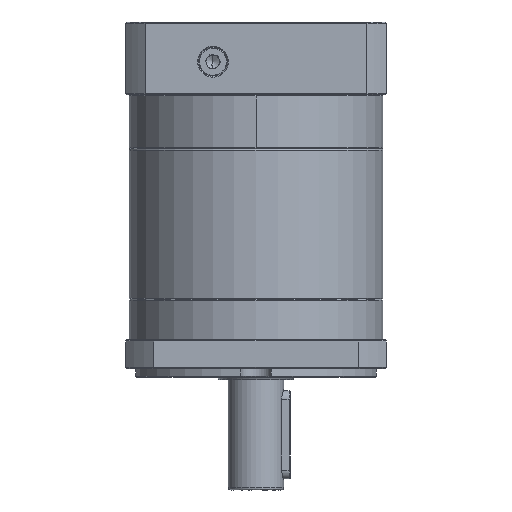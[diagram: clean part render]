
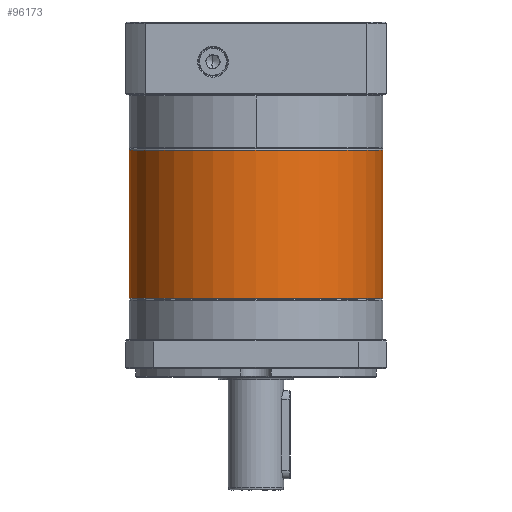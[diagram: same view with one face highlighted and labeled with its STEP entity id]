
A CAD part, front view. The second image highlights one B-rep face of the part: STEP entity #96173.
In plain terms, the highlighted cylindrical face has radius 57.5 mm (diameter 115 mm), a partial arc.
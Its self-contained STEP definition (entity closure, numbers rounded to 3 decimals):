
#675 = VECTOR ( 'NONE', #74967, 1000. ) ;
#3941 = CARTESIAN_POINT ( 'NONE',  ( -8.841, 66.552, -62.096 ) ) ;
#12199 = VERTEX_POINT ( 'NONE', #89781 ) ;
#13494 = CARTESIAN_POINT ( 'NONE',  ( 48.659, 66.552, -62.096 ) ) ;
#15420 = EDGE_LOOP ( 'NONE', ( #60437, #20336, #126710, #114107, #60908 ) ) ;
#19571 = CIRCLE ( 'NONE', #128892, 57.5 ) ;
#20336 = ORIENTED_EDGE ( 'NONE', *, *, #81958, .T. ) ;
#32185 = DIRECTION ( 'NONE',  ( 0., 0., -1. ) ) ;
#40182 = VERTEX_POINT ( 'NONE', #84804 ) ;
#40280 = AXIS2_PLACEMENT_3D ( 'NONE', #94298, #44136, #115853 ) ;
#44136 = DIRECTION ( 'NONE',  ( 0., 0., 1. ) ) ;
#46650 = EDGE_CURVE ( 'NONE', #12199, #109965, #111916, .T. ) ;
#47718 = CARTESIAN_POINT ( 'NONE',  ( 48.659, 66.552, -62.596 ) ) ;
#48606 = DIRECTION ( 'NONE',  ( 0., 0., -1. ) ) ;
#48667 = AXIS2_PLACEMENT_3D ( 'NONE', #47718, #48606, #120321 ) ;
#49176 = VECTOR ( 'NONE', #32185, 1000. ) ;
#49644 = CARTESIAN_POINT ( 'NONE',  ( 48.659, 9.052, -62.596 ) ) ;
#50309 = LINE ( 'NONE', #3941, #675 ) ;
#52249 = AXIS2_PLACEMENT_3D ( 'NONE', #13494, #96258, #126784 ) ;
#57441 = EDGE_CURVE ( 'NONE', #85283, #40182, #19571, .T. ) ;
#57713 = DIRECTION ( 'NONE',  ( 0., 0., -1. ) ) ;
#60437 = ORIENTED_EDGE ( 'NONE', *, *, #79725, .F. ) ;
#60908 = ORIENTED_EDGE ( 'NONE', *, *, #46650, .T. ) ;
#63007 = CARTESIAN_POINT ( 'NONE',  ( 106.159, 66.552, -62.096 ) ) ;
#67928 = CARTESIAN_POINT ( 'NONE',  ( 106.159, 66.552, -129.808 ) ) ;
#74967 = DIRECTION ( 'NONE',  ( 0., 0., -1. ) ) ;
#79725 = EDGE_CURVE ( 'NONE', #122791, #109965, #110195, .T. ) ;
#81958 = EDGE_CURVE ( 'NONE', #122791, #85283, #92917, .T. ) ;
#84804 = CARTESIAN_POINT ( 'NONE',  ( -8.841, 66.552, -62.596 ) ) ;
#85283 = VERTEX_POINT ( 'NONE', #49644 ) ;
#85801 = CYLINDRICAL_SURFACE ( 'NONE', #52249, 57.5 ) ;
#87766 = DIRECTION ( 'NONE',  ( -1., 0., 0. ) ) ;
#89781 = CARTESIAN_POINT ( 'NONE',  ( -8.841, 66.552, -129.808 ) ) ;
#92917 = CIRCLE ( 'NONE', #48667, 57.5 ) ;
#94298 = CARTESIAN_POINT ( 'NONE',  ( 48.659, 66.552, -129.808 ) ) ;
#96173 = ADVANCED_FACE ( 'NONE', ( #106794 ), #85801, .T. ) ;
#96258 = DIRECTION ( 'NONE',  ( 0., 0., -1. ) ) ;
#106794 = FACE_OUTER_BOUND ( 'NONE', #15420, .T. ) ;
#109965 = VERTEX_POINT ( 'NONE', #67928 ) ;
#110195 = LINE ( 'NONE', #63007, #49176 ) ;
#111916 = CIRCLE ( 'NONE', #40280, 57.5 ) ;
#114107 = ORIENTED_EDGE ( 'NONE', *, *, #120659, .T. ) ;
#115853 = DIRECTION ( 'NONE',  ( -1., 0., 0. ) ) ;
#120321 = DIRECTION ( 'NONE',  ( -1., 0., 0. ) ) ;
#120659 = EDGE_CURVE ( 'NONE', #40182, #12199, #50309, .T. ) ;
#122791 = VERTEX_POINT ( 'NONE', #124292 ) ;
#124292 = CARTESIAN_POINT ( 'NONE',  ( 106.159, 66.552, -62.596 ) ) ;
#126710 = ORIENTED_EDGE ( 'NONE', *, *, #57441, .T. ) ;
#126784 = DIRECTION ( 'NONE',  ( -1., 0., 0. ) ) ;
#128892 = AXIS2_PLACEMENT_3D ( 'NONE', #129454, #57713, #87766 ) ;
#129454 = CARTESIAN_POINT ( 'NONE',  ( 48.659, 66.552, -62.596 ) ) ;
